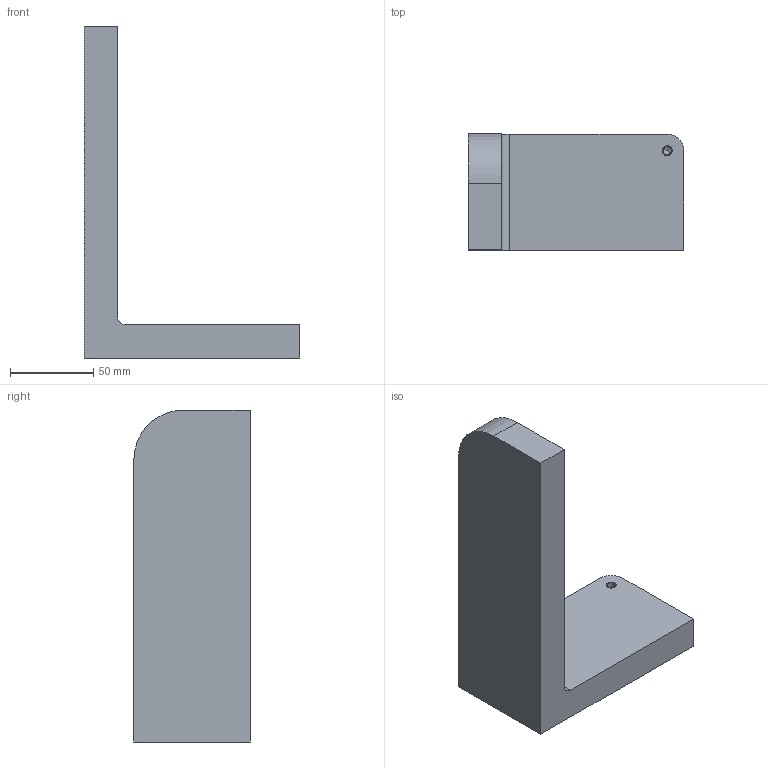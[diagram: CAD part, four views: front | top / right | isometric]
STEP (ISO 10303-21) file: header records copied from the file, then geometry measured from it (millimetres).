
FILE_DESCRIPTION(('CATIA V5 STEP Exchange'),'2;1');
FILE_NAME('C:\_Andres\UNIVERSIDAD\IQS\ASIGNATURAS\DAO\EXF\EXF-16172c\2inicio\Salazar_Martin_Ej01_v30.stp','2017-03-05T15:11:11+00:00',('none'),('none'),'CATIA Version 5-6 Release 2014 SP1 HF18','CATIA V5 STEP AP203','none');
FILE_SCHEMA(('CONFIG_CONTROL_DESIGN'));
Length unit declared in the file: millimetre
Products named in the file (1): Salazar_Martin_Ej01_v30
Bounding box: 130 x 70 x 200 mm (x, y, z)
Volume: 429770.7 mm3; surface area: 58164.2 mm2
Topology: 1 solids, 2 shells, 17 faces, 43 edges, 27 vertices
Faces by surface type: plane 8, cylinder 7, cone 2
Entity records: 513 total; most frequent: CARTESIAN_POINT 83, ORIENTED_EDGE 78, DIRECTION 69, EDGE_CURVE 41, AXIS2_PLACEMENT_3D 29, VECTOR 27, LINE 27, VERTEX_POINT 27
